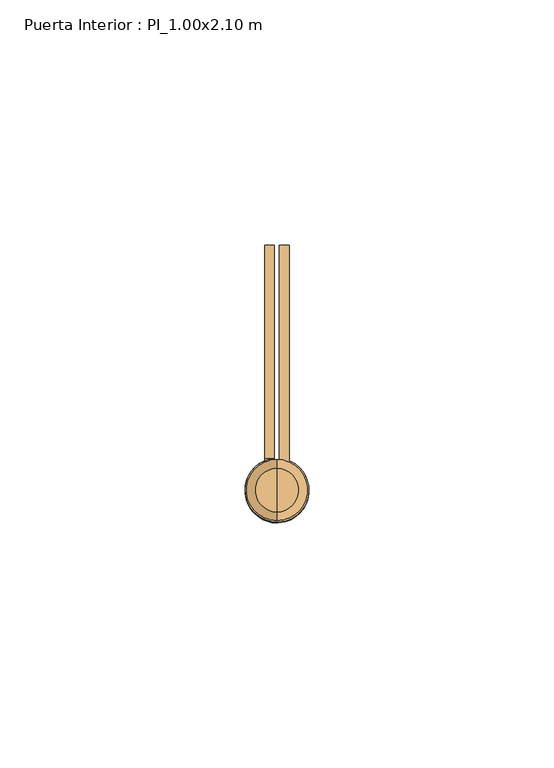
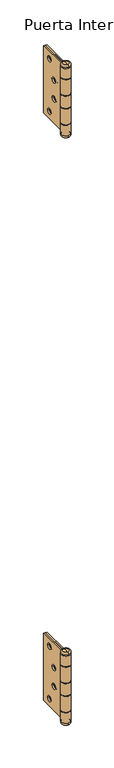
"""IFC4 building model written with IfcOpenShell, lengths in millimetres: door geometry, Puerta Interior : PI_1.00x2.10 m."""

from ifc_helpers import new_model, si_unit, point, frame, origin, place, context, project, spatial, polyline, circle_curve, ellipse_curve, trimmed, source, transform, mapped, element, save
from ifc_brep_helpers import plane_surface, cylinder_surface, revolved_surface, advanced_brep


def puerta_interior_pi_1_00x2_10_m_83b77251(model_context):
    return source(origin(), model_context, "Body", "AdvancedBrep", [
        advanced_brep(
        [(-464.0, -7.5, 1950.0), (-464.0, -51.5, 1950.0), (-464.0, -51.5, 1934.5), (-464.0, -51.0, 1934.5), (-464.0, -51.0, 1909.0), (-464.0, -51.5, 1909.0), (-464.0, -51.5, 1891.0), (-464.0, -51.0, 1891.0), (-464.0, -51.0, 1865.5), (-464.0, -51.5, 1865.5), (-464.0, -51.5, 1850.0), (-464.0, -7.5, 1850.0), (-464.0, -17.5, 1861.0), (-464.0, -25.5, 1861.0), (-464.0, -28.5, 1886.0), (-464.0, -36.5, 1886.0), (-464.0, -17.5, 1939.0), (-464.0, -25.5, 1939.0), (-464.0, -28.5, 1914.0), (-464.0, -36.5, 1914.0), (-466.0, -7.5, 1850.0), (-466.0, -53.027864, 1850.0), (-466.0, -53.027864, 1865.5), (-466.0, -51.0, 1865.5), (-466.0, -51.0, 1891.0), (-466.0, -53.027864, 1891.0), (-466.0, -53.027864, 1909.0), (-466.0, -51.0, 1909.0), (-466.0, -51.0, 1934.5), (-466.0, -53.027864, 1934.5), (-466.0, -53.027864, 1950.0), (-466.0, -7.5, 1950.0), (-466.0, -25.5, 1861.0), (-466.0, -17.5, 1861.0), (-466.0, -36.5, 1886.0), (-466.0, -28.5, 1886.0), (-466.0, -25.5, 1939.0), (-466.0, -17.5, 1939.0), (-466.0, -36.5, 1914.0), (-466.0, -28.5, 1914.0), (-467.0, -51.0192593, 1850.0), (-467.0, -53.027864, 1850.0), (-467.0, -53.027864, 1950.0), (-467.0, -51.0192593, 1950.0), (-467.0, -51.0192593, 1934.5), (-467.0, -53.027864, 1934.5), (-467.0, -53.027864, 1909.0), (-467.0, -51.0192593, 1909.0), (-467.0, -51.0192593, 1891.0), (-467.0, -53.027864, 1891.0), (-467.0, -53.027864, 1865.5), (-467.0, -51.0192593, 1865.5)],
        [
            (0, 1),
            (1, 2),
            (2, 3),
            (3, 4),
            (4, 5),
            (5, 6),
            (6, 7),
            (7, 8),
            (8, 9),
            (9, 10),
            (10, 11),
            (11, 0),
            (12, 13, circle_curve(frame((-464.0, -21.5, 1861.0), z_axis=(-1.0, 0.0, 0.0), x_axis=(0.0, 1.0, 0.0)), 4.0)),
            (13, 12, circle_curve(frame((-464.0, -21.5, 1861.0), z_axis=(-1.0, 0.0, 0.0), x_axis=(0.0, 1.0, 0.0)), 4.0)),
            (14, 15, circle_curve(frame((-464.0, -32.5, 1886.0), z_axis=(-1.0, 0.0, 0.0), x_axis=(0.0, 1.0, 0.0)), 4.0)),
            (15, 14, circle_curve(frame((-464.0, -32.5, 1886.0), z_axis=(-1.0, 0.0, 0.0), x_axis=(0.0, 1.0, 0.0)), 4.0)),
            (16, 17, circle_curve(frame((-464.0, -21.5, 1939.0), z_axis=(-1.0, 0.0, 0.0), x_axis=(0.0, 1.0, 0.0)), 4.0)),
            (17, 16, circle_curve(frame((-464.0, -21.5, 1939.0), z_axis=(-1.0, 0.0, 0.0), x_axis=(0.0, 1.0, 0.0)), 4.0)),
            (18, 19, circle_curve(frame((-464.0, -32.5, 1914.0), z_axis=(-1.0, 0.0, 0.0), x_axis=(0.0, 1.0, 0.0)), 4.0)),
            (19, 18, circle_curve(frame((-464.0, -32.5, 1914.0), z_axis=(-1.0, 0.0, 0.0), x_axis=(0.0, 1.0, 0.0)), 4.0)),
            (20, 21),
            (21, 22),
            (22, 23),
            (23, 24),
            (24, 25),
            (25, 26),
            (26, 27),
            (27, 28),
            (28, 29),
            (29, 30),
            (30, 31),
            (31, 20),
            (32, 33, circle_curve(frame((-466.0, -21.5, 1861.0), z_axis=(1.0, 0.0, 0.0), x_axis=(0.0, 1.0, 0.0)), 4.0)),
            (33, 32, circle_curve(frame((-466.0, -21.5, 1861.0), z_axis=(1.0, 0.0, 0.0), x_axis=(0.0, 1.0, 0.0)), 4.0)),
            (34, 35, circle_curve(frame((-466.0, -32.5, 1886.0), z_axis=(1.0, 0.0, 0.0), x_axis=(0.0, 1.0, 0.0)), 4.0)),
            (35, 34, circle_curve(frame((-466.0, -32.5, 1886.0), z_axis=(1.0, 0.0, 0.0), x_axis=(0.0, 1.0, 0.0)), 4.0)),
            (36, 37, circle_curve(frame((-466.0, -21.5, 1939.0), z_axis=(1.0, 0.0, 0.0), x_axis=(0.0, 1.0, 0.0)), 4.0)),
            (37, 36, circle_curve(frame((-466.0, -21.5, 1939.0), z_axis=(1.0, 0.0, 0.0), x_axis=(0.0, 1.0, 0.0)), 4.0)),
            (38, 39, circle_curve(frame((-466.0, -32.5, 1914.0), z_axis=(1.0, 0.0, 0.0), x_axis=(0.0, 1.0, 0.0)), 4.0)),
            (39, 38, circle_curve(frame((-466.0, -32.5, 1914.0), z_axis=(1.0, 0.0, 0.0), x_axis=(0.0, 1.0, 0.0)), 4.0)),
            (10, 40, circle_curve(frame((-466.5, -57.5, 1850.0), z_axis=(0.0, 0.0, -1.0), x_axis=(0.0, -1.0, 0.0)), 6.5)),
            (40, 41),
            (41, 21, circle_curve(frame((-466.5, -57.5, 1850.0), z_axis=(0.0, 0.0, 1.0), x_axis=(0.0, -1.0, 0.0)), 4.5)),
            (20, 11),
            (31, 0),
            (30, 42, circle_curve(frame((-466.5, -57.5, 1950.0), z_axis=(0.0, 0.0, -1.0), x_axis=(0.0, -1.0, 0.0)), 4.5)),
            (42, 43),
            (43, 1, circle_curve(frame((-466.5, -57.5, 1950.0), z_axis=(0.0, 0.0, 1.0), x_axis=(0.0, -1.0, 0.0)), 6.5)),
            (27, 4),
            (3, 28),
            (23, 8),
            (7, 24),
            (2, 44, circle_curve(frame((-466.5, -57.5, 1934.5), z_axis=(0.0, 0.0, -1.0), x_axis=(0.0, -1.0, 0.0)), 6.5)),
            (44, 45),
            (45, 29, circle_curve(frame((-466.5, -57.5, 1934.5), z_axis=(0.0, 0.0, 1.0), x_axis=(0.0, -1.0, 0.0)), 4.5)),
            (43, 44),
            (42, 45),
            (26, 46, circle_curve(frame((-466.5, -57.5, 1909.0), z_axis=(0.0, 0.0, -1.0), x_axis=(0.0, -1.0, 0.0)), 4.5)),
            (46, 47),
            (47, 5, circle_curve(frame((-466.5, -57.5, 1909.0), z_axis=(0.0, 0.0, 1.0), x_axis=(0.0, -1.0, 0.0)), 6.5)),
            (6, 48, circle_curve(frame((-466.5, -57.5, 1891.0), z_axis=(0.0, 0.0, -1.0), x_axis=(0.0, -1.0, 0.0)), 6.5)),
            (48, 49),
            (49, 25, circle_curve(frame((-466.5, -57.5, 1891.0), z_axis=(0.0, 0.0, 1.0), x_axis=(0.0, -1.0, 0.0)), 4.5)),
            (47, 48),
            (46, 49),
            (22, 50, circle_curve(frame((-466.5, -57.5, 1865.5), z_axis=(0.0, 0.0, -1.0), x_axis=(0.0, -1.0, 0.0)), 4.5)),
            (50, 51),
            (51, 9, circle_curve(frame((-466.5, -57.5, 1865.5), z_axis=(0.0, 0.0, 1.0), x_axis=(0.0, -1.0, 0.0)), 6.5)),
            (51, 40),
            (50, 41),
            (33, 12),
            (13, 32),
            (35, 14),
            (15, 34),
            (37, 16),
            (17, 36),
            (39, 18),
            (19, 38),
        ],
        [
            plane_surface(frame((-464.0, -51.0, 1850.0), z_axis=(1.0, 0.0, 0.0), x_axis=(0.0, 0.0, 1.0))),
            plane_surface(frame((-466.0, -51.0, 1850.0), z_axis=(-1.0, 0.0, 0.0), x_axis=(0.0, 0.0, -1.0))),
            plane_surface(frame((-464.0, -7.5, 1850.0), z_axis=(0.0, 0.0, -1.0), x_axis=(-1.0, 0.0, 0.0))),
            plane_surface(frame((-464.0, -7.5, 1950.0), z_axis=(0.0, 1.0, 0.0), x_axis=(-1.0, 0.0, 0.0))),
            plane_surface(frame((-464.0, -51.0, 1950.0), z_axis=(0.0, 0.0, 1.0), x_axis=(-1.0, 0.0, 0.0))),
            plane_surface(frame((-464.0, -51.0, 1850.0), z_axis=(0.0, -1.0, 0.0), x_axis=(-1.0, 0.0, 0.0))),
            plane_surface(frame((-466.0, -51.0, 1934.5), z_axis=(0.0, 0.0, -1.0), x_axis=(0.0, -1.0, 0.0))),
            cylinder_surface(frame((-466.5, -57.5, 1934.5), z_axis=(0.0, 0.0, 1.0), x_axis=(0.0, -1.0, 0.0)), 6.5),
            plane_surface(frame((-467.0, -51.0192593, 1950.0), z_axis=(1.0, 0.0, 0.0), x_axis=(0.0, 0.0, -1.0))),
            revolved_surface(polyline([(-466.5, -62.0, 1934.5), (-466.5, -62.0, 1950.0)]), (-466.5, -57.5, 1934.5), (0.0, 0.0, -1.0)),
            plane_surface(frame((-466.0, -51.0, 1909.0), z_axis=(0.0, 0.0, 1.0), x_axis=(0.0, 1.0, 0.0))),
            plane_surface(frame((-466.0, -51.0, 1891.0), z_axis=(0.0, 0.0, -1.0), x_axis=(0.0, -1.0, 0.0))),
            cylinder_surface(frame((-466.5, -57.5, 1891.0), z_axis=(0.0, 0.0, 1.0), x_axis=(0.0, -1.0, 0.0)), 6.5),
            plane_surface(frame((-467.0, -51.0192593, 1909.0), z_axis=(1.0, 0.0, 0.0), x_axis=(0.0, 0.0, -1.0))),
            revolved_surface(polyline([(-466.5, -62.0, 1891.0), (-466.5, -62.0, 1909.0)]), (-466.5, -57.5, 1891.0), (0.0, 0.0, -1.0)),
            plane_surface(frame((-466.0, -51.0, 1865.5), z_axis=(0.0, 0.0, 1.0), x_axis=(0.0, 1.0, 0.0))),
            cylinder_surface(frame((-466.5, -57.5, 1850.0), z_axis=(0.0, 0.0, 1.0), x_axis=(0.0, -1.0, 0.0)), 6.5),
            plane_surface(frame((-467.0, -51.0192593, 1865.5), z_axis=(1.0, 0.0, 0.0), x_axis=(0.0, 0.0, -1.0))),
            revolved_surface(polyline([(-466.5, -62.0, 1850.0), (-466.5, -62.0, 1865.5)]), (-466.5, -57.5, 1850.0), (0.0, 0.0, -1.0)),
            revolved_surface(polyline([(-464.0, -17.5, 1861.0), (-466.0, -17.5, 1861.0)]), (-469.0, -21.5, 1861.0), (1.0, 0.0, 0.0)),
            revolved_surface(polyline([(-464.0, -28.5, 1886.0), (-466.0, -28.5, 1886.0)]), (-467.0, -32.5, 1886.0), (1.0, 0.0, 0.0)),
            revolved_surface(polyline([(-464.0, -17.5, 1939.0), (-466.0, -17.5, 1939.0)]), (-467.0, -21.5, 1939.0), (1.0, 0.0, 0.0)),
            revolved_surface(polyline([(-464.0, -28.5, 1914.0), (-466.0, -28.5, 1914.0)]), (-467.0, -32.5, 1914.0), (1.0, 0.0, 0.0)),
        ],
        [
            (0, [[1, 2, 3, 4, 5, 6, 7, 8, 9, 10, 11, 12], [13, 14], [15, 16], [17, 18], [19, 20]]),
            (1, [[21, 22, 23, 24, 25, 26, 27, 28, 29, 30, 31, 32], [33, 34], [35, 36], [37, 38], [39, 40]]),
            (2, [[-11, 41, 42, 43, -21, 44]]),
            (3, [[-44, -32, 45, -12]]),
            (4, [[-31, 46, 47, 48, -1, -45]]),
            (5, [[-28, 49, -4, 50]]),
            (5, [[-24, 51, -8, 52]]),
            (6, [[-29, -50, -3, 53, 54, 55]]),
            (7, [[56, -53, -2, -48]]),
            (8, [[57, -54, -56, -47]]),
            (9, [[-30, -55, -57, -46]]),
            (10, [[-5, -49, -27, 58, 59, 60]]),
            (11, [[-25, -52, -7, 61, 62, 63]]),
            (12, [[64, -61, -6, -60]]),
            (13, [[65, -62, -64, -59]]),
            (14, [[-26, -63, -65, -58]]),
            (15, [[-9, -51, -23, 66, 67, 68]]),
            (16, [[69, -41, -10, -68]]),
            (17, [[70, -42, -69, -67]]),
            (18, [[-22, -43, -70, -66]]),
            (19, [[-34, 71, -14, 72]]),
            (19, [[-13, -71, -33, -72]]),
            (20, [[-36, 73, -16, 74]]),
            (20, [[-15, -73, -35, -74]]),
            (21, [[-38, 75, -18, 76]]),
            (21, [[-17, -75, -37, -76]]),
            (22, [[-40, 77, -20, 78]]),
            (22, [[-19, -77, -39, -78]]),
        ],
    ),
        advanced_brep(
        [(-466.5, -53.0, 1954.0), (-466.5, -53.0, 1950.5), (-466.5, -61.9442719, 1950.5), (-466.5, -61.9442719, 1954.0), (-466.5, -57.472136, 1954.0), (-466.5, -53.0, 1846.0), (-466.5, -57.472136, 1846.0), (-466.5, -61.9442719, 1846.0), (-466.5, -53.0, 1849.5), (-466.5, -61.9442719, 1849.5)],
        [
            (0, 1, circle_curve(frame((-466.5, -53.0, 1952.25), z_axis=(-1.0, 0.0, 0.0), x_axis=(0.0, -1.0, 0.0)), 1.75)),
            (1, 2, circle_curve(frame((-466.5, -57.472136, 1950.5), z_axis=(0.0, 0.0, 1.0), x_axis=(0.0, -1.0, 0.0)), 4.472136)),
            (2, 3, circle_curve(frame((-466.5, -61.9442719, 1952.25), z_axis=(-1.0, 0.0, 0.0), x_axis=(0.0, 1.0, 0.0)), 1.75)),
            (3, 0, circle_curve(frame((-466.5, -57.472136, 1954.0), z_axis=(0.0, 0.0, -1.0), x_axis=(0.0, -1.0, 0.0)), 4.472136)),
            (2, 1, circle_curve(frame((-466.5, -57.472136, 1950.5), z_axis=(0.0, 0.0, 1.0), x_axis=(0.0, -1.0, 0.0)), 4.472136)),
            (0, 3, circle_curve(frame((-466.5, -57.472136, 1954.0), z_axis=(0.0, 0.0, -1.0), x_axis=(0.0, -1.0, 0.0)), 4.472136)),
            (4, 0),
            (3, 4),
            (5, 6),
            (6, 7),
            (7, 5, circle_curve(frame((-466.5, -57.472136, 1846.0), z_axis=(0.0, 0.0, -1.0), x_axis=(0.0, -1.0, 0.0)), 4.472136)),
            (5, 7, circle_curve(frame((-466.5, -57.472136, 1846.0), z_axis=(0.0, 0.0, -1.0), x_axis=(0.0, -1.0, 0.0)), 4.472136)),
            (8, 5, circle_curve(frame((-466.5, -53.0, 1847.75), z_axis=(-1.0, 0.0, 0.0), x_axis=(0.0, -1.0, 0.0)), 1.75)),
            (7, 9, circle_curve(frame((-466.5, -61.9442719, 1847.75), z_axis=(-1.0, 0.0, 0.0), x_axis=(0.0, 1.0, 0.0)), 1.75)),
            (9, 8, circle_curve(frame((-466.5, -57.472136, 1849.5), z_axis=(0.0, 0.0, -1.0), x_axis=(0.0, -1.0, 0.0)), 4.472136)),
            (8, 9, circle_curve(frame((-466.5, -57.472136, 1849.5), z_axis=(0.0, 0.0, -1.0), x_axis=(0.0, -1.0, 0.0)), 4.472136)),
            (1, 8),
            (9, 2),
        ],
        [
            revolved_surface(trimmed(ellipse_curve(frame((-466.5, -61.9442719, 1952.25), z_axis=(-1.0, 0.0, 0.0), x_axis=(0.0, 1.0, 0.0)), 1.75, 1.75), [point((-466.5, -61.9442719, 1950.5))], [point((-466.5, -61.9442719, 1954.0))], True, "CARTESIAN"), (-466.5, -57.472136, 1954.0), (0.0, 0.0, 1.0)),
            plane_surface(frame((-466.5, -57.472136, 1954.0), z_axis=(0.0, 0.0, 1.0), x_axis=(0.0, -1.0, 0.0))),
            plane_surface(frame((-466.5, -57.472136, 1846.0), z_axis=(0.0, 0.0, -1.0), x_axis=(0.0, -1.0, 0.0))),
            revolved_surface(trimmed(ellipse_curve(frame((-466.5, -61.9442719, 1847.75), z_axis=(-1.0, 0.0, 0.0), x_axis=(0.0, 1.0, 0.0)), 1.75, 1.75), [point((-466.5, -61.9442719, 1846.0))], [point((-466.5, -61.9442719, 1849.5))], True, "CARTESIAN"), (-466.5, -57.472136, 1954.0), (0.0, 0.0, 1.0)),
            cylinder_surface(frame((-466.5, -57.472136, 1954.0), z_axis=(0.0, 0.0, 1.0), x_axis=(0.0, -1.0, 0.0)), 4.472136),
        ],
        [
            (0, [[1, 2, 3, 4]]),
            (0, [[-3, 5, -1, 6]]),
            (1, [[7, -4, 8]]),
            (1, [[-8, -6, -7]]),
            (2, [[9, 10, 11]]),
            (2, [[-10, -9, 12]]),
            (3, [[13, -11, 14, 15]]),
            (3, [[-14, -12, -13, 16]]),
            (4, [[17, -15, 18, -2]]),
            (4, [[-18, -16, -17, -5]]),
        ],
    ),
        advanced_brep(
        [(-467.0, -51.0, 1950.0), (-467.0, -51.0, 1933.5), (-467.0, -53.027864, 1933.5), (-467.0, -53.027864, 1910.0), (-467.0, -51.0, 1910.0), (-467.0, -51.0, 1890.0), (-467.0, -53.027864, 1890.0), (-467.0, -53.027864, 1866.5), (-467.0, -51.0, 1866.5), (-467.0, -51.0, 1850.0), (-467.0, -7.5, 1850.0), (-467.0, -7.5, 1950.0), (-467.0, -17.5, 1861.0), (-467.0, -25.5, 1861.0), (-467.0, -28.5, 1886.0), (-467.0, -36.5, 1886.0), (-467.0, -17.5, 1939.0), (-467.0, -25.5, 1939.0), (-467.0, -28.5, 1914.0), (-467.0, -36.5, 1914.0), (-469.0, -51.0, 1850.0), (-469.0, -51.0, 1866.5), (-469.0, -51.5, 1866.5), (-469.0, -51.5, 1890.0), (-469.0, -51.0, 1890.0), (-469.0, -51.0, 1910.0), (-469.0, -51.5, 1910.0), (-469.0, -51.5, 1933.5), (-469.0, -51.0, 1933.5), (-469.0, -51.0, 1950.0), (-469.0, -7.5, 1950.0), (-469.0, -7.5, 1850.0), (-469.0, -25.5, 1861.0), (-469.0, -17.5, 1861.0), (-469.0, -36.5, 1886.0), (-469.0, -28.5, 1886.0), (-469.0, -25.5, 1939.0), (-469.0, -17.5, 1939.0), (-469.0, -36.5, 1914.0), (-469.0, -28.5, 1914.0), (-466.0, -51.0192593, 1933.5), (-466.0, -53.027864, 1933.5), (-466.0, -53.027864, 1910.0), (-466.0, -51.0192593, 1910.0), (-466.0, -51.0192593, 1890.0), (-466.0, -53.027864, 1890.0), (-466.0, -53.027864, 1866.5), (-466.0, -51.0192593, 1866.5)],
        [
            (0, 1),
            (1, 2),
            (2, 3),
            (3, 4),
            (4, 5),
            (5, 6),
            (6, 7),
            (7, 8),
            (8, 9),
            (9, 10),
            (10, 11),
            (11, 0),
            (12, 13, circle_curve(frame((-467.0, -21.5, 1861.0), z_axis=(-1.0, 0.0, 0.0), x_axis=(0.0, 1.0, 0.0)), 4.0)),
            (13, 12, circle_curve(frame((-467.0, -21.5, 1861.0), z_axis=(-1.0, 0.0, 0.0), x_axis=(0.0, 1.0, 0.0)), 4.0)),
            (14, 15, circle_curve(frame((-467.0, -32.5, 1886.0), z_axis=(-1.0, 0.0, 0.0), x_axis=(0.0, 1.0, 0.0)), 4.0)),
            (15, 14, circle_curve(frame((-467.0, -32.5, 1886.0), z_axis=(-1.0, 0.0, 0.0), x_axis=(0.0, 1.0, 0.0)), 4.0)),
            (16, 17, circle_curve(frame((-467.0, -21.5, 1939.0), z_axis=(-1.0, 0.0, 0.0), x_axis=(0.0, 1.0, 0.0)), 4.0)),
            (17, 16, circle_curve(frame((-467.0, -21.5, 1939.0), z_axis=(-1.0, 0.0, 0.0), x_axis=(0.0, 1.0, 0.0)), 4.0)),
            (18, 19, circle_curve(frame((-467.0, -32.5, 1914.0), z_axis=(-1.0, 0.0, 0.0), x_axis=(0.0, 1.0, 0.0)), 4.0)),
            (19, 18, circle_curve(frame((-467.0, -32.5, 1914.0), z_axis=(-1.0, 0.0, 0.0), x_axis=(0.0, 1.0, 0.0)), 4.0)),
            (20, 21),
            (21, 22),
            (22, 23),
            (23, 24),
            (24, 25),
            (25, 26),
            (26, 27),
            (27, 28),
            (28, 29),
            (29, 30),
            (30, 31),
            (31, 20),
            (32, 33, circle_curve(frame((-469.0, -21.5, 1861.0), z_axis=(1.0, 0.0, 0.0), x_axis=(0.0, 1.0, 0.0)), 4.0)),
            (33, 32, circle_curve(frame((-469.0, -21.5, 1861.0), z_axis=(1.0, 0.0, 0.0), x_axis=(0.0, 1.0, 0.0)), 4.0)),
            (34, 35, circle_curve(frame((-469.0, -32.5, 1886.0), z_axis=(1.0, 0.0, 0.0), x_axis=(0.0, 1.0, 0.0)), 4.0)),
            (35, 34, circle_curve(frame((-469.0, -32.5, 1886.0), z_axis=(1.0, 0.0, 0.0), x_axis=(0.0, 1.0, 0.0)), 4.0)),
            (36, 37, circle_curve(frame((-469.0, -21.5, 1939.0), z_axis=(1.0, 0.0, 0.0), x_axis=(0.0, 1.0, 0.0)), 4.0)),
            (37, 36, circle_curve(frame((-469.0, -21.5, 1939.0), z_axis=(1.0, 0.0, 0.0), x_axis=(0.0, 1.0, 0.0)), 4.0)),
            (38, 39, circle_curve(frame((-469.0, -32.5, 1914.0), z_axis=(1.0, 0.0, 0.0), x_axis=(0.0, 1.0, 0.0)), 4.0)),
            (39, 38, circle_curve(frame((-469.0, -32.5, 1914.0), z_axis=(1.0, 0.0, 0.0), x_axis=(0.0, 1.0, 0.0)), 4.0)),
            (9, 20),
            (31, 10),
            (30, 11),
            (29, 0),
            (8, 21),
            (28, 1),
            (24, 5),
            (4, 25),
            (27, 40, circle_curve(frame((-466.5, -57.5, 1933.5), z_axis=(0.0, 0.0, 1.0), x_axis=(0.0, -1.0, 0.0)), 6.5)),
            (40, 41),
            (41, 2, circle_curve(frame((-466.5, -57.5, 1933.5), z_axis=(0.0, 0.0, -1.0), x_axis=(0.0, -1.0, 0.0)), 4.5)),
            (3, 42, circle_curve(frame((-466.5, -57.5, 1910.0), z_axis=(0.0, 0.0, 1.0), x_axis=(0.0, -1.0, 0.0)), 4.5)),
            (42, 43),
            (43, 26, circle_curve(frame((-466.5, -57.5, 1910.0), z_axis=(0.0, 0.0, -1.0), x_axis=(0.0, -1.0, 0.0)), 6.5)),
            (43, 40),
            (42, 41),
            (23, 44, circle_curve(frame((-466.5, -57.5, 1890.0), z_axis=(0.0, 0.0, 1.0), x_axis=(0.0, -1.0, 0.0)), 6.5)),
            (44, 45),
            (45, 6, circle_curve(frame((-466.5, -57.5, 1890.0), z_axis=(0.0, 0.0, -1.0), x_axis=(0.0, -1.0, 0.0)), 4.5)),
            (7, 46, circle_curve(frame((-466.5, -57.5, 1866.5), z_axis=(0.0, 0.0, 1.0), x_axis=(0.0, -1.0, 0.0)), 4.5)),
            (46, 47),
            (47, 22, circle_curve(frame((-466.5, -57.5, 1866.5), z_axis=(0.0, 0.0, -1.0), x_axis=(0.0, -1.0, 0.0)), 6.5)),
            (47, 44),
            (46, 45),
            (33, 12),
            (13, 32),
            (35, 14),
            (15, 34),
            (37, 16),
            (17, 36),
            (39, 18),
            (19, 38),
        ],
        [
            plane_surface(frame((-467.0, -51.0, 1850.0), z_axis=(1.0, 0.0, 0.0), x_axis=(0.0, 0.0, 1.0))),
            plane_surface(frame((-469.0, -51.0, 1850.0), z_axis=(-1.0, 0.0, 0.0), x_axis=(0.0, 0.0, -1.0))),
            plane_surface(frame((-467.0, -7.5, 1850.0), z_axis=(0.0, 0.0, -1.0), x_axis=(-1.0, 0.0, 0.0))),
            plane_surface(frame((-467.0, -7.5, 1950.0), z_axis=(0.0, 1.0, 0.0), x_axis=(-1.0, 0.0, 0.0))),
            plane_surface(frame((-467.0, -51.0, 1950.0), z_axis=(0.0, 0.0, 1.0), x_axis=(-1.0, 0.0, 0.0))),
            plane_surface(frame((-467.0, -51.0, 1850.0), z_axis=(0.0, -1.0, 0.0), x_axis=(-1.0, 0.0, 0.0))),
            plane_surface(frame((-466.5, -62.0, 1933.5), z_axis=(0.0, 0.0, 1.0), x_axis=(1.0, 0.0, 0.0))),
            plane_surface(frame((-466.5, -62.0, 1910.0), z_axis=(0.0, 0.0, -1.0), x_axis=(-1.0, 0.0, 0.0))),
            cylinder_surface(frame((-466.5, -57.5, 1910.0), z_axis=(0.0, 0.0, 1.0), x_axis=(0.0, -1.0, 0.0)), 6.5),
            plane_surface(frame((-466.0, -53.027864, 1933.5), z_axis=(-1.0, 0.0, 0.0), x_axis=(0.0, 0.0, -1.0))),
            revolved_surface(polyline([(-466.5, -62.0, 1910.0), (-466.5, -62.0, 1933.5)]), (-466.5, -57.5, 1910.0), (0.0, 0.0, -1.0)),
            plane_surface(frame((-466.5, -62.0, 1890.0), z_axis=(0.0, 0.0, 1.0), x_axis=(1.0, 0.0, 0.0))),
            plane_surface(frame((-466.5, -62.0, 1866.5), z_axis=(0.0, 0.0, -1.0), x_axis=(-1.0, 0.0, 0.0))),
            cylinder_surface(frame((-466.5, -57.5, 1866.5), z_axis=(0.0, 0.0, 1.0), x_axis=(0.0, -1.0, 0.0)), 6.5),
            plane_surface(frame((-466.0, -53.027864, 1890.0), z_axis=(-1.0, 0.0, 0.0), x_axis=(0.0, 0.0, -1.0))),
            revolved_surface(polyline([(-466.5, -62.0, 1866.5), (-466.5, -62.0, 1890.0)]), (-466.5, -57.5, 1866.5), (0.0, 0.0, -1.0)),
            revolved_surface(polyline([(-467.0, -17.5, 1861.0), (-469.0, -17.5, 1861.0)]), (-469.0, -21.5, 1861.0), (1.0, 0.0, 0.0)),
            revolved_surface(polyline([(-467.0, -28.5, 1886.0), (-469.0, -28.5, 1886.0)]), (-467.0, -32.5, 1886.0), (1.0, 0.0, 0.0)),
            revolved_surface(polyline([(-467.0, -17.5, 1939.0), (-469.0, -17.5, 1939.0)]), (-467.0, -21.5, 1939.0), (1.0, 0.0, 0.0)),
            revolved_surface(polyline([(-467.0, -28.5, 1914.0), (-469.0, -28.5, 1914.0)]), (-467.0, -32.5, 1914.0), (1.0, 0.0, 0.0)),
        ],
        [
            (0, [[1, 2, 3, 4, 5, 6, 7, 8, 9, 10, 11, 12], [13, 14], [15, 16], [17, 18], [19, 20]]),
            (1, [[21, 22, 23, 24, 25, 26, 27, 28, 29, 30, 31, 32], [33, 34], [35, 36], [37, 38], [39, 40]]),
            (2, [[41, -32, 42, -10]]),
            (3, [[-42, -31, 43, -11]]),
            (4, [[-43, -30, 44, -12]]),
            (5, [[-9, 45, -21, -41]]),
            (5, [[-29, 46, -1, -44]]),
            (5, [[-25, 47, -5, 48]]),
            (6, [[-2, -46, -28, 49, 50, 51]]),
            (7, [[-26, -48, -4, 52, 53, 54]]),
            (8, [[-27, -54, 55, -49]]),
            (9, [[-55, -53, 56, -50]]),
            (10, [[-56, -52, -3, -51]]),
            (11, [[-6, -47, -24, 57, 58, 59]]),
            (12, [[-22, -45, -8, 60, 61, 62]]),
            (13, [[-23, -62, 63, -57]]),
            (14, [[-63, -61, 64, -58]]),
            (15, [[-64, -60, -7, -59]]),
            (16, [[-34, 65, -14, 66]]),
            (16, [[-13, -65, -33, -66]]),
            (17, [[-36, 67, -16, 68]]),
            (17, [[-15, -67, -35, -68]]),
            (18, [[-38, 69, -18, 70]]),
            (18, [[-17, -69, -37, -70]]),
            (19, [[-40, 71, -20, 72]]),
            (19, [[-19, -71, -39, -72]]),
        ],
    ),
        advanced_brep(
        [(-464.0, -7.5, 1075.0174632), (-464.0, -51.5, 1075.0174632), (-464.0, -51.5, 1059.5174632), (-464.0, -51.0, 1059.5174632), (-464.0, -51.0, 1034.0174632), (-464.0, -51.5, 1034.0174632), (-464.0, -51.5, 1016.0174632), (-464.0, -51.0, 1016.0174632), (-464.0, -51.0, 990.5174632), (-464.0, -51.5, 990.5174632), (-464.0, -51.5, 975.0174632), (-464.0, -7.5, 975.0174632), (-464.0, -17.5, 986.0174632), (-464.0, -25.5, 986.0174632), (-464.0, -28.5, 1011.0174632), (-464.0, -36.5, 1011.0174632), (-464.0, -17.5, 1064.0174632), (-464.0, -25.5, 1064.0174632), (-464.0, -28.5, 1039.0174632), (-464.0, -36.5, 1039.0174632), (-466.0, -7.5, 975.0174632), (-466.0, -53.027864, 975.0174632), (-466.0, -53.027864, 990.5174632), (-466.0, -51.0, 990.5174632), (-466.0, -51.0, 1016.0174632), (-466.0, -53.027864, 1016.0174632), (-466.0, -53.027864, 1034.0174632), (-466.0, -51.0, 1034.0174632), (-466.0, -51.0, 1059.5174632), (-466.0, -53.027864, 1059.5174632), (-466.0, -53.027864, 1075.0174632), (-466.0, -7.5, 1075.0174632), (-466.0, -25.5, 986.0174632), (-466.0, -17.5, 986.0174632), (-466.0, -36.5, 1011.0174632), (-466.0, -28.5, 1011.0174632), (-466.0, -25.5, 1064.0174632), (-466.0, -17.5, 1064.0174632), (-466.0, -36.5, 1039.0174632), (-466.0, -28.5, 1039.0174632), (-467.0, -51.0192593, 975.0174632), (-467.0, -53.027864, 975.0174632), (-467.0, -53.027864, 1075.0174632), (-467.0, -51.0192593, 1075.0174632), (-467.0, -51.0192593, 1059.5174632), (-467.0, -53.027864, 1059.5174632), (-467.0, -53.027864, 1034.0174632), (-467.0, -51.0192593, 1034.0174632), (-467.0, -51.0192593, 1016.0174632), (-467.0, -53.027864, 1016.0174632), (-467.0, -53.027864, 990.5174632), (-467.0, -51.0192593, 990.5174632)],
        [
            (0, 1),
            (1, 2),
            (2, 3),
            (3, 4),
            (4, 5),
            (5, 6),
            (6, 7),
            (7, 8),
            (8, 9),
            (9, 10),
            (10, 11),
            (11, 0),
            (12, 13, circle_curve(frame((-464.0, -21.5, 986.0174632), z_axis=(-1.0, 0.0, 0.0), x_axis=(0.0, 1.0, 0.0)), 4.0)),
            (13, 12, circle_curve(frame((-464.0, -21.5, 986.0174632), z_axis=(-1.0, 0.0, 0.0), x_axis=(0.0, 1.0, 0.0)), 4.0)),
            (14, 15, circle_curve(frame((-464.0, -32.5, 1011.0174632), z_axis=(-1.0, 0.0, 0.0), x_axis=(0.0, 1.0, 0.0)), 4.0)),
            (15, 14, circle_curve(frame((-464.0, -32.5, 1011.0174632), z_axis=(-1.0, 0.0, 0.0), x_axis=(0.0, 1.0, 0.0)), 4.0)),
            (16, 17, circle_curve(frame((-464.0, -21.5, 1064.0174632), z_axis=(-1.0, 0.0, 0.0), x_axis=(0.0, 1.0, 0.0)), 4.0)),
            (17, 16, circle_curve(frame((-464.0, -21.5, 1064.0174632), z_axis=(-1.0, 0.0, 0.0), x_axis=(0.0, 1.0, 0.0)), 4.0)),
            (18, 19, circle_curve(frame((-464.0, -32.5, 1039.0174632), z_axis=(-1.0, 0.0, 0.0), x_axis=(0.0, 1.0, 0.0)), 4.0)),
            (19, 18, circle_curve(frame((-464.0, -32.5, 1039.0174632), z_axis=(-1.0, 0.0, 0.0), x_axis=(0.0, 1.0, 0.0)), 4.0)),
            (20, 21),
            (21, 22),
            (22, 23),
            (23, 24),
            (24, 25),
            (25, 26),
            (26, 27),
            (27, 28),
            (28, 29),
            (29, 30),
            (30, 31),
            (31, 20),
            (32, 33, circle_curve(frame((-466.0, -21.5, 986.0174632), z_axis=(1.0, 0.0, 0.0), x_axis=(0.0, 1.0, 0.0)), 4.0)),
            (33, 32, circle_curve(frame((-466.0, -21.5, 986.0174632), z_axis=(1.0, 0.0, 0.0), x_axis=(0.0, 1.0, 0.0)), 4.0)),
            (34, 35, circle_curve(frame((-466.0, -32.5, 1011.0174632), z_axis=(1.0, 0.0, 0.0), x_axis=(0.0, 1.0, 0.0)), 4.0)),
            (35, 34, circle_curve(frame((-466.0, -32.5, 1011.0174632), z_axis=(1.0, 0.0, 0.0), x_axis=(0.0, 1.0, 0.0)), 4.0)),
            (36, 37, circle_curve(frame((-466.0, -21.5, 1064.0174632), z_axis=(1.0, 0.0, 0.0), x_axis=(0.0, 1.0, 0.0)), 4.0)),
            (37, 36, circle_curve(frame((-466.0, -21.5, 1064.0174632), z_axis=(1.0, 0.0, 0.0), x_axis=(0.0, 1.0, 0.0)), 4.0)),
            (38, 39, circle_curve(frame((-466.0, -32.5, 1039.0174632), z_axis=(1.0, 0.0, 0.0), x_axis=(0.0, 1.0, 0.0)), 4.0)),
            (39, 38, circle_curve(frame((-466.0, -32.5, 1039.0174632), z_axis=(1.0, 0.0, 0.0), x_axis=(0.0, 1.0, 0.0)), 4.0)),
            (10, 40, circle_curve(frame((-466.5, -57.5, 975.0174632), z_axis=(0.0, 0.0, -1.0), x_axis=(0.0, -1.0, 0.0)), 6.5)),
            (40, 41),
            (41, 21, circle_curve(frame((-466.5, -57.5, 975.0174632), z_axis=(0.0, 0.0, 1.0), x_axis=(0.0, -1.0, 0.0)), 4.5)),
            (20, 11),
            (31, 0),
            (30, 42, circle_curve(frame((-466.5, -57.5, 1075.0174632), z_axis=(0.0, 0.0, -1.0), x_axis=(0.0, -1.0, 0.0)), 4.5)),
            (42, 43),
            (43, 1, circle_curve(frame((-466.5, -57.5, 1075.0174632), z_axis=(0.0, 0.0, 1.0), x_axis=(0.0, -1.0, 0.0)), 6.5)),
            (27, 4),
            (3, 28),
            (23, 8),
            (7, 24),
            (2, 44, circle_curve(frame((-466.5, -57.5, 1059.5174632), z_axis=(0.0, 0.0, -1.0), x_axis=(0.0, -1.0, 0.0)), 6.5)),
            (44, 45),
            (45, 29, circle_curve(frame((-466.5, -57.5, 1059.5174632), z_axis=(0.0, 0.0, 1.0), x_axis=(0.0, -1.0, 0.0)), 4.5)),
            (43, 44),
            (42, 45),
            (26, 46, circle_curve(frame((-466.5, -57.5, 1034.0174632), z_axis=(0.0, 0.0, -1.0), x_axis=(0.0, -1.0, 0.0)), 4.5)),
            (46, 47),
            (47, 5, circle_curve(frame((-466.5, -57.5, 1034.0174632), z_axis=(0.0, 0.0, 1.0), x_axis=(0.0, -1.0, 0.0)), 6.5)),
            (6, 48, circle_curve(frame((-466.5, -57.5, 1016.0174632), z_axis=(0.0, 0.0, -1.0), x_axis=(0.0, -1.0, 0.0)), 6.5)),
            (48, 49),
            (49, 25, circle_curve(frame((-466.5, -57.5, 1016.0174632), z_axis=(0.0, 0.0, 1.0), x_axis=(0.0, -1.0, 0.0)), 4.5)),
            (47, 48),
            (46, 49),
            (22, 50, circle_curve(frame((-466.5, -57.5, 990.5174632), z_axis=(0.0, 0.0, -1.0), x_axis=(0.0, -1.0, 0.0)), 4.5)),
            (50, 51),
            (51, 9, circle_curve(frame((-466.5, -57.5, 990.5174632), z_axis=(0.0, 0.0, 1.0), x_axis=(0.0, -1.0, 0.0)), 6.5)),
            (51, 40),
            (50, 41),
            (33, 12),
            (13, 32),
            (35, 14),
            (15, 34),
            (37, 16),
            (17, 36),
            (39, 18),
            (19, 38),
        ],
        [
            plane_surface(frame((-464.0, -51.0, 975.0174632), z_axis=(1.0, 0.0, 0.0), x_axis=(0.0, 0.0, 1.0))),
            plane_surface(frame((-466.0, -51.0, 975.0174632), z_axis=(-1.0, 0.0, 0.0), x_axis=(0.0, 0.0, -1.0))),
            plane_surface(frame((-464.0, -7.5, 975.0174632), z_axis=(0.0, 0.0, -1.0), x_axis=(-1.0, 0.0, 0.0))),
            plane_surface(frame((-464.0, -7.5, 1075.0174632), z_axis=(0.0, 1.0, 0.0), x_axis=(-1.0, 0.0, 0.0))),
            plane_surface(frame((-464.0, -51.0, 1075.0174632), z_axis=(0.0, 0.0, 1.0), x_axis=(-1.0, 0.0, 0.0))),
            plane_surface(frame((-464.0, -51.0, 975.0174632), z_axis=(0.0, -1.0, 0.0), x_axis=(-1.0, 0.0, 0.0))),
            plane_surface(frame((-466.0, -51.0, 1059.5174632), z_axis=(0.0, 0.0, -1.0), x_axis=(0.0, -1.0, 0.0))),
            cylinder_surface(frame((-466.5, -57.5, 1059.5174632), z_axis=(0.0, 0.0, 1.0), x_axis=(0.0, -1.0, 0.0)), 6.5),
            plane_surface(frame((-467.0, -51.0192593, 1075.0174632), z_axis=(1.0, 0.0, 0.0), x_axis=(0.0, 0.0, -1.0))),
            revolved_surface(polyline([(-466.5, -62.0, 1059.5174632), (-466.5, -62.0, 1075.0174632)]), (-466.5, -57.5, 1059.5174632), (0.0, 0.0, -1.0)),
            plane_surface(frame((-466.0, -51.0, 1034.0174632), z_axis=(0.0, 0.0, 1.0), x_axis=(0.0, 1.0, 0.0))),
            plane_surface(frame((-466.0, -51.0, 1016.0174632), z_axis=(0.0, 0.0, -1.0), x_axis=(0.0, -1.0, 0.0))),
            cylinder_surface(frame((-466.5, -57.5, 1016.0174632), z_axis=(0.0, 0.0, 1.0), x_axis=(0.0, -1.0, 0.0)), 6.5),
            plane_surface(frame((-467.0, -51.0192593, 1034.0174632), z_axis=(1.0, 0.0, 0.0), x_axis=(0.0, 0.0, -1.0))),
            revolved_surface(polyline([(-466.5, -62.0, 1016.0174632), (-466.5, -62.0, 1034.0174632)]), (-466.5, -57.5, 1016.0174632), (0.0, 0.0, -1.0)),
            plane_surface(frame((-466.0, -51.0, 990.5174632), z_axis=(0.0, 0.0, 1.0), x_axis=(0.0, 1.0, 0.0))),
            cylinder_surface(frame((-466.5, -57.5, 975.0174632), z_axis=(0.0, 0.0, 1.0), x_axis=(0.0, -1.0, 0.0)), 6.5),
            plane_surface(frame((-467.0, -51.0192593, 990.5174632), z_axis=(1.0, 0.0, 0.0), x_axis=(0.0, 0.0, -1.0))),
            revolved_surface(polyline([(-466.5, -62.0, 975.0174632), (-466.5, -62.0, 990.5174632)]), (-466.5, -57.5, 975.0174632), (0.0, 0.0, -1.0)),
            revolved_surface(polyline([(-464.0, -17.5, 986.0174632), (-466.0, -17.5, 986.0174632)]), (-469.0, -21.5, 986.0174632), (1.0, 0.0, 0.0)),
            revolved_surface(polyline([(-464.0, -28.5, 1011.0174632), (-466.0, -28.5, 1011.0174632)]), (-467.0, -32.5, 1011.0174632), (1.0, 0.0, 0.0)),
            revolved_surface(polyline([(-464.0, -17.5, 1064.0174632), (-466.0, -17.5, 1064.0174632)]), (-467.0, -21.5, 1064.0174632), (1.0, 0.0, 0.0)),
            revolved_surface(polyline([(-464.0, -28.5, 1039.0174632), (-466.0, -28.5, 1039.0174632)]), (-467.0, -32.5, 1039.0174632), (1.0, 0.0, 0.0)),
        ],
        [
            (0, [[1, 2, 3, 4, 5, 6, 7, 8, 9, 10, 11, 12], [13, 14], [15, 16], [17, 18], [19, 20]]),
            (1, [[21, 22, 23, 24, 25, 26, 27, 28, 29, 30, 31, 32], [33, 34], [35, 36], [37, 38], [39, 40]]),
            (2, [[-11, 41, 42, 43, -21, 44]]),
            (3, [[-44, -32, 45, -12]]),
            (4, [[-31, 46, 47, 48, -1, -45]]),
            (5, [[-28, 49, -4, 50]]),
            (5, [[-24, 51, -8, 52]]),
            (6, [[-29, -50, -3, 53, 54, 55]]),
            (7, [[56, -53, -2, -48]]),
            (8, [[57, -54, -56, -47]]),
            (9, [[-30, -55, -57, -46]]),
            (10, [[-5, -49, -27, 58, 59, 60]]),
            (11, [[-25, -52, -7, 61, 62, 63]]),
            (12, [[64, -61, -6, -60]]),
            (13, [[65, -62, -64, -59]]),
            (14, [[-26, -63, -65, -58]]),
            (15, [[-9, -51, -23, 66, 67, 68]]),
            (16, [[69, -41, -10, -68]]),
            (17, [[70, -42, -69, -67]]),
            (18, [[-22, -43, -70, -66]]),
            (19, [[-34, 71, -14, 72]]),
            (19, [[-13, -71, -33, -72]]),
            (20, [[-36, 73, -16, 74]]),
            (20, [[-15, -73, -35, -74]]),
            (21, [[-38, 75, -18, 76]]),
            (21, [[-17, -75, -37, -76]]),
            (22, [[-40, 77, -20, 78]]),
            (22, [[-19, -77, -39, -78]]),
        ],
    ),
        advanced_brep(
        [(-466.5, -53.0, 1079.0174632), (-466.5, -53.0, 1075.5174632), (-466.5, -61.9442719, 1075.5174632), (-466.5, -61.9442719, 1079.0174632), (-466.5, -57.472136, 1079.0174632), (-466.5, -53.0, 971.0174632), (-466.5, -57.472136, 971.0174632), (-466.5, -61.9442719, 971.0174632), (-466.5, -53.0, 974.5174632), (-466.5, -61.9442719, 974.5174632)],
        [
            (0, 1, circle_curve(frame((-466.5, -53.0, 1077.2674632), z_axis=(-1.0, 0.0, 0.0), x_axis=(0.0, -1.0, 0.0)), 1.75)),
            (1, 2, circle_curve(frame((-466.5, -57.472136, 1075.5174632), z_axis=(0.0, 0.0, 1.0), x_axis=(0.0, -1.0, 0.0)), 4.472136)),
            (2, 3, circle_curve(frame((-466.5, -61.9442719, 1077.2674632), z_axis=(-1.0, 0.0, 0.0), x_axis=(0.0, 1.0, 0.0)), 1.75)),
            (3, 0, circle_curve(frame((-466.5, -57.472136, 1079.0174632), z_axis=(0.0, 0.0, -1.0), x_axis=(0.0, -1.0, 0.0)), 4.472136)),
            (2, 1, circle_curve(frame((-466.5, -57.472136, 1075.5174632), z_axis=(0.0, 0.0, 1.0), x_axis=(0.0, -1.0, 0.0)), 4.472136)),
            (0, 3, circle_curve(frame((-466.5, -57.472136, 1079.0174632), z_axis=(0.0, 0.0, -1.0), x_axis=(0.0, -1.0, 0.0)), 4.472136)),
            (4, 0),
            (3, 4),
            (5, 6),
            (6, 7),
            (7, 5, circle_curve(frame((-466.5, -57.472136, 971.0174632), z_axis=(0.0, 0.0, -1.0), x_axis=(0.0, -1.0, 0.0)), 4.472136)),
            (5, 7, circle_curve(frame((-466.5, -57.472136, 971.0174632), z_axis=(0.0, 0.0, -1.0), x_axis=(0.0, -1.0, 0.0)), 4.472136)),
            (8, 5, circle_curve(frame((-466.5, -53.0, 972.7674632), z_axis=(-1.0, 0.0, 0.0), x_axis=(0.0, -1.0, 0.0)), 1.75)),
            (7, 9, circle_curve(frame((-466.5, -61.9442719, 972.7674632), z_axis=(-1.0, 0.0, 0.0), x_axis=(0.0, 1.0, 0.0)), 1.75)),
            (9, 8, circle_curve(frame((-466.5, -57.472136, 974.5174632), z_axis=(0.0, 0.0, -1.0), x_axis=(0.0, -1.0, 0.0)), 4.472136)),
            (8, 9, circle_curve(frame((-466.5, -57.472136, 974.5174632), z_axis=(0.0, 0.0, -1.0), x_axis=(0.0, -1.0, 0.0)), 4.472136)),
            (1, 8),
            (9, 2),
        ],
        [
            revolved_surface(trimmed(ellipse_curve(frame((-466.5, -61.9442719, 1077.2674632), z_axis=(-1.0, 0.0, 0.0), x_axis=(0.0, 1.0, 0.0)), 1.75, 1.75), [point((-466.5, -61.9442719, 1075.5174632))], [point((-466.5, -61.9442719, 1079.0174632))], True, "CARTESIAN"), (-466.5, -57.472136, 1079.0174632), (0.0, 0.0, 1.0)),
            plane_surface(frame((-466.5, -57.472136, 1079.0174632), z_axis=(0.0, 0.0, 1.0), x_axis=(0.0, -1.0, 0.0))),
            plane_surface(frame((-466.5, -57.472136, 971.0174632), z_axis=(0.0, 0.0, -1.0), x_axis=(0.0, -1.0, 0.0))),
            revolved_surface(trimmed(ellipse_curve(frame((-466.5, -61.9442719, 972.7674632), z_axis=(-1.0, 0.0, 0.0), x_axis=(0.0, 1.0, 0.0)), 1.75, 1.75), [point((-466.5, -61.9442719, 971.0174632))], [point((-466.5, -61.9442719, 974.5174632))], True, "CARTESIAN"), (-466.5, -57.472136, 1079.0174632), (0.0, 0.0, 1.0)),
            cylinder_surface(frame((-466.5, -57.472136, 1079.0174632), z_axis=(0.0, 0.0, 1.0), x_axis=(0.0, -1.0, 0.0)), 4.472136),
        ],
        [
            (0, [[1, 2, 3, 4]]),
            (0, [[-3, 5, -1, 6]]),
            (1, [[7, -4, 8]]),
            (1, [[-8, -6, -7]]),
            (2, [[9, 10, 11]]),
            (2, [[-10, -9, 12]]),
            (3, [[13, -11, 14, 15]]),
            (3, [[-14, -12, -13, 16]]),
            (4, [[17, -15, 18, -2]]),
            (4, [[-18, -16, -17, -5]]),
        ],
    ),
        advanced_brep(
        [(-467.0, -51.0, 1075.0174632), (-467.0, -51.0, 1058.5174632), (-467.0, -53.027864, 1058.5174632), (-467.0, -53.027864, 1035.0174632), (-467.0, -51.0, 1035.0174632), (-467.0, -51.0, 1015.0174632), (-467.0, -53.027864, 1015.0174632), (-467.0, -53.027864, 991.5174632), (-467.0, -51.0, 991.5174632), (-467.0, -51.0, 975.0174632), (-467.0, -7.5, 975.0174632), (-467.0, -7.5, 1075.0174632), (-467.0, -17.5, 986.0174632), (-467.0, -25.5, 986.0174632), (-467.0, -28.5, 1011.0174632), (-467.0, -36.5, 1011.0174632), (-467.0, -17.5, 1064.0174632), (-467.0, -25.5, 1064.0174632), (-467.0, -28.5, 1039.0174632), (-467.0, -36.5, 1039.0174632), (-469.0, -51.0, 975.0174632), (-469.0, -51.0, 991.5174632), (-469.0, -51.5, 991.5174632), (-469.0, -51.5, 1015.0174632), (-469.0, -51.0, 1015.0174632), (-469.0, -51.0, 1035.0174632), (-469.0, -51.5, 1035.0174632), (-469.0, -51.5, 1058.5174632), (-469.0, -51.0, 1058.5174632), (-469.0, -51.0, 1075.0174632), (-469.0, -7.5, 1075.0174632), (-469.0, -7.5, 975.0174632), (-469.0, -25.5, 986.0174632), (-469.0, -17.5, 986.0174632), (-469.0, -36.5, 1011.0174632), (-469.0, -28.5, 1011.0174632), (-469.0, -25.5, 1064.0174632), (-469.0, -17.5, 1064.0174632), (-469.0, -36.5, 1039.0174632), (-469.0, -28.5, 1039.0174632), (-466.0, -51.0192593, 1058.5174632), (-466.0, -53.027864, 1058.5174632), (-466.0, -53.027864, 1035.0174632), (-466.0, -51.0192593, 1035.0174632), (-466.0, -51.0192593, 1015.0174632), (-466.0, -53.027864, 1015.0174632), (-466.0, -53.027864, 991.5174632), (-466.0, -51.0192593, 991.5174632)],
        [
            (0, 1),
            (1, 2),
            (2, 3),
            (3, 4),
            (4, 5),
            (5, 6),
            (6, 7),
            (7, 8),
            (8, 9),
            (9, 10),
            (10, 11),
            (11, 0),
            (12, 13, circle_curve(frame((-467.0, -21.5, 986.0174632), z_axis=(-1.0, 0.0, 0.0), x_axis=(0.0, 1.0, 0.0)), 4.0)),
            (13, 12, circle_curve(frame((-467.0, -21.5, 986.0174632), z_axis=(-1.0, 0.0, 0.0), x_axis=(0.0, 1.0, 0.0)), 4.0)),
            (14, 15, circle_curve(frame((-467.0, -32.5, 1011.0174632), z_axis=(-1.0, 0.0, 0.0), x_axis=(0.0, 1.0, 0.0)), 4.0)),
            (15, 14, circle_curve(frame((-467.0, -32.5, 1011.0174632), z_axis=(-1.0, 0.0, 0.0), x_axis=(0.0, 1.0, 0.0)), 4.0)),
            (16, 17, circle_curve(frame((-467.0, -21.5, 1064.0174632), z_axis=(-1.0, 0.0, 0.0), x_axis=(0.0, 1.0, 0.0)), 4.0)),
            (17, 16, circle_curve(frame((-467.0, -21.5, 1064.0174632), z_axis=(-1.0, 0.0, 0.0), x_axis=(0.0, 1.0, 0.0)), 4.0)),
            (18, 19, circle_curve(frame((-467.0, -32.5, 1039.0174632), z_axis=(-1.0, 0.0, 0.0), x_axis=(0.0, 1.0, 0.0)), 4.0)),
            (19, 18, circle_curve(frame((-467.0, -32.5, 1039.0174632), z_axis=(-1.0, 0.0, 0.0), x_axis=(0.0, 1.0, 0.0)), 4.0)),
            (20, 21),
            (21, 22),
            (22, 23),
            (23, 24),
            (24, 25),
            (25, 26),
            (26, 27),
            (27, 28),
            (28, 29),
            (29, 30),
            (30, 31),
            (31, 20),
            (32, 33, circle_curve(frame((-469.0, -21.5, 986.0174632), z_axis=(1.0, 0.0, 0.0), x_axis=(0.0, 1.0, 0.0)), 4.0)),
            (33, 32, circle_curve(frame((-469.0, -21.5, 986.0174632), z_axis=(1.0, 0.0, 0.0), x_axis=(0.0, 1.0, 0.0)), 4.0)),
            (34, 35, circle_curve(frame((-469.0, -32.5, 1011.0174632), z_axis=(1.0, 0.0, 0.0), x_axis=(0.0, 1.0, 0.0)), 4.0)),
            (35, 34, circle_curve(frame((-469.0, -32.5, 1011.0174632), z_axis=(1.0, 0.0, 0.0), x_axis=(0.0, 1.0, 0.0)), 4.0)),
            (36, 37, circle_curve(frame((-469.0, -21.5, 1064.0174632), z_axis=(1.0, 0.0, 0.0), x_axis=(0.0, 1.0, 0.0)), 4.0)),
            (37, 36, circle_curve(frame((-469.0, -21.5, 1064.0174632), z_axis=(1.0, 0.0, 0.0), x_axis=(0.0, 1.0, 0.0)), 4.0)),
            (38, 39, circle_curve(frame((-469.0, -32.5, 1039.0174632), z_axis=(1.0, 0.0, 0.0), x_axis=(0.0, 1.0, 0.0)), 4.0)),
            (39, 38, circle_curve(frame((-469.0, -32.5, 1039.0174632), z_axis=(1.0, 0.0, 0.0), x_axis=(0.0, 1.0, 0.0)), 4.0)),
            (9, 20),
            (31, 10),
            (30, 11),
            (29, 0),
            (8, 21),
            (28, 1),
            (24, 5),
            (4, 25),
            (27, 40, circle_curve(frame((-466.5, -57.5, 1058.5174632), z_axis=(0.0, 0.0, 1.0), x_axis=(0.0, -1.0, 0.0)), 6.5)),
            (40, 41),
            (41, 2, circle_curve(frame((-466.5, -57.5, 1058.5174632), z_axis=(0.0, 0.0, -1.0), x_axis=(0.0, -1.0, 0.0)), 4.5)),
            (3, 42, circle_curve(frame((-466.5, -57.5, 1035.0174632), z_axis=(0.0, 0.0, 1.0), x_axis=(0.0, -1.0, 0.0)), 4.5)),
            (42, 43),
            (43, 26, circle_curve(frame((-466.5, -57.5, 1035.0174632), z_axis=(0.0, 0.0, -1.0), x_axis=(0.0, -1.0, 0.0)), 6.5)),
            (43, 40),
            (42, 41),
            (23, 44, circle_curve(frame((-466.5, -57.5, 1015.0174632), z_axis=(0.0, 0.0, 1.0), x_axis=(0.0, -1.0, 0.0)), 6.5)),
            (44, 45),
            (45, 6, circle_curve(frame((-466.5, -57.5, 1015.0174632), z_axis=(0.0, 0.0, -1.0), x_axis=(0.0, -1.0, 0.0)), 4.5)),
            (7, 46, circle_curve(frame((-466.5, -57.5, 991.5174632), z_axis=(0.0, 0.0, 1.0), x_axis=(0.0, -1.0, 0.0)), 4.5)),
            (46, 47),
            (47, 22, circle_curve(frame((-466.5, -57.5, 991.5174632), z_axis=(0.0, 0.0, -1.0), x_axis=(0.0, -1.0, 0.0)), 6.5)),
            (47, 44),
            (46, 45),
            (33, 12),
            (13, 32),
            (35, 14),
            (15, 34),
            (37, 16),
            (17, 36),
            (39, 18),
            (19, 38),
        ],
        [
            plane_surface(frame((-467.0, -51.0, 975.0174632), z_axis=(1.0, 0.0, 0.0), x_axis=(0.0, 0.0, 1.0))),
            plane_surface(frame((-469.0, -51.0, 975.0174632), z_axis=(-1.0, 0.0, 0.0), x_axis=(0.0, 0.0, -1.0))),
            plane_surface(frame((-467.0, -7.5, 975.0174632), z_axis=(0.0, 0.0, -1.0), x_axis=(-1.0, 0.0, 0.0))),
            plane_surface(frame((-467.0, -7.5, 1075.0174632), z_axis=(0.0, 1.0, 0.0), x_axis=(-1.0, 0.0, 0.0))),
            plane_surface(frame((-467.0, -51.0, 1075.0174632), z_axis=(0.0, 0.0, 1.0), x_axis=(-1.0, 0.0, 0.0))),
            plane_surface(frame((-467.0, -51.0, 975.0174632), z_axis=(0.0, -1.0, 0.0), x_axis=(-1.0, 0.0, 0.0))),
            plane_surface(frame((-466.5, -62.0, 1058.5174632), z_axis=(0.0, 0.0, 1.0), x_axis=(1.0, 0.0, 0.0))),
            plane_surface(frame((-466.5, -62.0, 1035.0174632), z_axis=(0.0, 0.0, -1.0), x_axis=(-1.0, 0.0, 0.0))),
            cylinder_surface(frame((-466.5, -57.5, 1035.0174632), z_axis=(0.0, 0.0, 1.0), x_axis=(0.0, -1.0, 0.0)), 6.5),
            plane_surface(frame((-466.0, -53.027864, 1058.5174632), z_axis=(-1.0, 0.0, 0.0), x_axis=(0.0, 0.0, -1.0))),
            revolved_surface(polyline([(-466.5, -62.0, 1035.0174632), (-466.5, -62.0, 1058.5174632)]), (-466.5, -57.5, 1035.0174632), (0.0, 0.0, -1.0)),
            plane_surface(frame((-466.5, -62.0, 1015.0174632), z_axis=(0.0, 0.0, 1.0), x_axis=(1.0, 0.0, 0.0))),
            plane_surface(frame((-466.5, -62.0, 991.5174632), z_axis=(0.0, 0.0, -1.0), x_axis=(-1.0, 0.0, 0.0))),
            cylinder_surface(frame((-466.5, -57.5, 991.5174632), z_axis=(0.0, 0.0, 1.0), x_axis=(0.0, -1.0, 0.0)), 6.5),
            plane_surface(frame((-466.0, -53.027864, 1015.0174632), z_axis=(-1.0, 0.0, 0.0), x_axis=(0.0, 0.0, -1.0))),
            revolved_surface(polyline([(-466.5, -62.0, 991.5174632), (-466.5, -62.0, 1015.0174632)]), (-466.5, -57.5, 991.5174632), (0.0, 0.0, -1.0)),
            revolved_surface(polyline([(-467.0, -17.5, 986.0174632), (-469.0, -17.5, 986.0174632)]), (-469.0, -21.5, 986.0174632), (1.0, 0.0, 0.0)),
            revolved_surface(polyline([(-467.0, -28.5, 1011.0174632), (-469.0, -28.5, 1011.0174632)]), (-467.0, -32.5, 1011.0174632), (1.0, 0.0, 0.0)),
            revolved_surface(polyline([(-467.0, -17.5, 1064.0174632), (-469.0, -17.5, 1064.0174632)]), (-467.0, -21.5, 1064.0174632), (1.0, 0.0, 0.0)),
            revolved_surface(polyline([(-467.0, -28.5, 1039.0174632), (-469.0, -28.5, 1039.0174632)]), (-467.0, -32.5, 1039.0174632), (1.0, 0.0, 0.0)),
        ],
        [
            (0, [[1, 2, 3, 4, 5, 6, 7, 8, 9, 10, 11, 12], [13, 14], [15, 16], [17, 18], [19, 20]]),
            (1, [[21, 22, 23, 24, 25, 26, 27, 28, 29, 30, 31, 32], [33, 34], [35, 36], [37, 38], [39, 40]]),
            (2, [[41, -32, 42, -10]]),
            (3, [[-42, -31, 43, -11]]),
            (4, [[-43, -30, 44, -12]]),
            (5, [[-9, 45, -21, -41]]),
            (5, [[-29, 46, -1, -44]]),
            (5, [[-25, 47, -5, 48]]),
            (6, [[-2, -46, -28, 49, 50, 51]]),
            (7, [[-26, -48, -4, 52, 53, 54]]),
            (8, [[-27, -54, 55, -49]]),
            (9, [[-55, -53, 56, -50]]),
            (10, [[-56, -52, -3, -51]]),
            (11, [[-6, -47, -24, 57, 58, 59]]),
            (12, [[-22, -45, -8, 60, 61, 62]]),
            (13, [[-23, -62, 63, -57]]),
            (14, [[-63, -61, 64, -58]]),
            (15, [[-64, -60, -7, -59]]),
            (16, [[-34, 65, -14, 66]]),
            (16, [[-13, -65, -33, -66]]),
            (17, [[-36, 67, -16, 68]]),
            (17, [[-15, -67, -35, -68]]),
            (18, [[-38, 69, -18, 70]]),
            (18, [[-17, -69, -37, -70]]),
            (19, [[-40, 71, -20, 72]]),
            (19, [[-19, -71, -39, -72]]),
        ],
    ),
    ])


if __name__ == "__main__":
    model = new_model("IFC4")
    model_context = context("Model", 3, world=origin())
    ifc_project = project(units=[si_unit("LENGTHUNIT", "METRE", prefix="MILLI")], contexts=[model_context])
    site = spatial("IfcSite", under=ifc_project)
    building = spatial("IfcBuilding", under=site)
    placement = place(None, origin())
    puerta_interior_pi_1_00x2_10_m_shape = puerta_interior_pi_1_00x2_10_m_83b77251(model_context)
    element("IfcDoor", 1, ObjectType="Puerta Interior : PI_1.00x2.10 m", at=placement, inside=building, context=model_context, shape_type="MappedRepresentation", body=[
        mapped(puerta_interior_pi_1_00x2_10_m_shape, transform((0.0, 0.0, 0.0), x_axis=(1.0, 0.0, 0.0), y_axis=(0.0, 1.0, 0.0), z_axis=(0.0, 0.0, 1.0))),
    ])
    save(model, "model.ifc")
